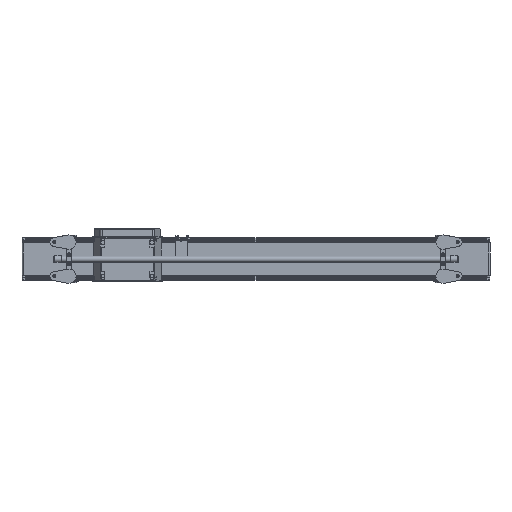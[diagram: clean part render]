
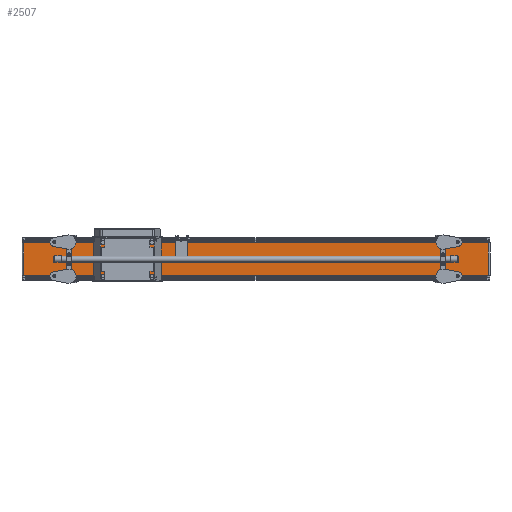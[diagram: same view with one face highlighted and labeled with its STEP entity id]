
A CAD part, front view. The second image highlights one B-rep face of the part: STEP entity #2507.
In plain terms, the highlighted planar face has unit normal (0, -1, 0).
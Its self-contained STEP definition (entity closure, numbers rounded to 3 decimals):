
#2507=ADVANCED_FACE('',(#12881),#12880,.F.);
#12880=PLANE('',#27996);
#12881=FACE_OUTER_BOUND('',#27997,.T.);
#27993=CARTESIAN_POINT('',(2004.,-12.2,-80.));
#27994=DIRECTION('',(0.,1.,0.));
#27995=DIRECTION('',(-1.,0.,0.));
#27996=AXIS2_PLACEMENT_3D('',#27993,#27994,#27995);
#27997=EDGE_LOOP('',(#39121,#39122,#39123,#39124));
#39121=ORIENTED_EDGE('',*,*,#46293,.T.);
#39122=ORIENTED_EDGE('',*,*,#46294,.F.);
#39123=ORIENTED_EDGE('',*,*,#46295,.F.);
#39124=ORIENTED_EDGE('',*,*,#46296,.T.);
#46293=EDGE_CURVE('',#64636,#64637,#64638,.T.);
#46294=EDGE_CURVE('',#64644,#64637,#64645,.T.);
#46295=EDGE_CURVE('',#64651,#64644,#64652,.T.);
#46296=EDGE_CURVE('',#64651,#64636,#64658,.T.);
#64636=VERTEX_POINT('',#89664);
#64637=VERTEX_POINT('',#89665);
#64638=LINE('',#89666,#89667);
#64644=VERTEX_POINT('',#89669);
#64645=LINE('',#89670,#89671);
#64651=VERTEX_POINT('',#89673);
#64652=LINE('',#89674,#89675);
#64658=LINE('',#89677,#89678);
#89664=CARTESIAN_POINT('',(6.,-12.2,-70.));
#89665=CARTESIAN_POINT('',(1994.,-12.2,-70.));
#89666=CARTESIAN_POINT('',(6.,-12.2,-70.));
#89667=VECTOR('',#89668,1988.);
#89668=DIRECTION('',(1.,0.,0.));
#89669=CARTESIAN_POINT('',(1994.,-12.2,70.));
#89670=CARTESIAN_POINT('',(1994.,-12.2,70.));
#89671=VECTOR('',#89672,140.);
#89672=DIRECTION('',(0.,0.,-1.));
#89673=CARTESIAN_POINT('',(6.,-12.2,70.));
#89674=CARTESIAN_POINT('',(6.,-12.2,70.));
#89675=VECTOR('',#89676,1988.);
#89676=DIRECTION('',(1.,0.,0.));
#89677=CARTESIAN_POINT('',(6.,-12.2,70.));
#89678=VECTOR('',#89679,140.);
#89679=DIRECTION('',(0.,0.,-1.));
